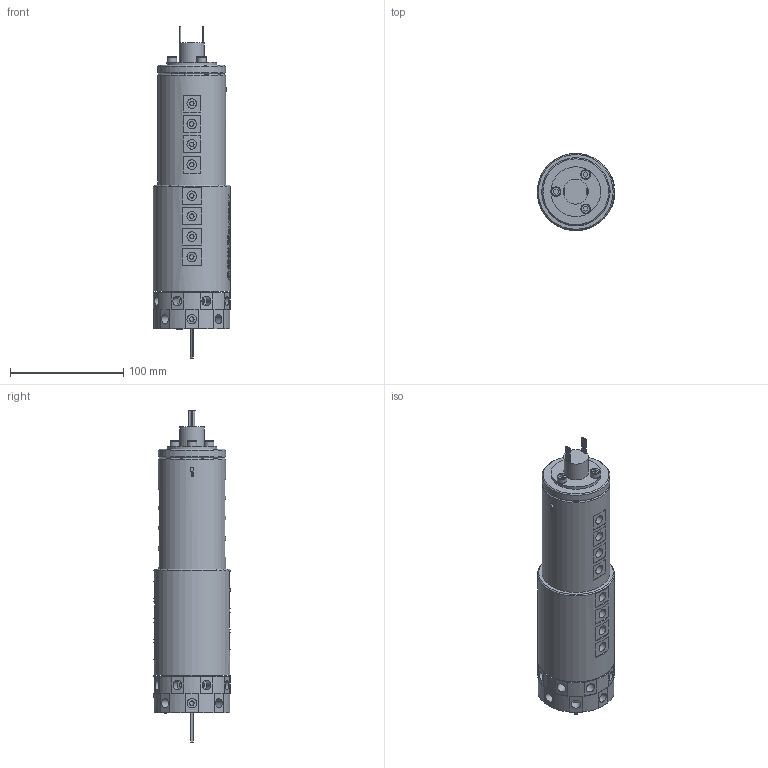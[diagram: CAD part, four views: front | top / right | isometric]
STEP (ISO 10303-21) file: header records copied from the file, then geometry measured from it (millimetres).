
FILE_DESCRIPTION(/* description */ (''),/* implementation_level */ '2;1');
FILE_NAME(/* name */ 'YQ1801-12M.stp',/* time_stamp */ '2025-02-15T15:38:36+08:00',/* author */ (''),/* organization */ (''),/* preprocessor_version */ 'ST-DEVELOPER v16.7',/* originating_system */ 'SIEMENS PLM Software NX 12.0',/* authorisation */ '');
FILE_SCHEMA (('AUTOMOTIVE_DESIGN { 1 0 10303 214 3 1 1 1 }'));
Products named in the file (1): HX0527348ECCpclg
Bounding box: 68.42 x 68 x 293.3 mm (x, y, z)
Volume: 728722.2 mm3; surface area: 92932.8 mm2
Topology: 1 solids, 12 shells, 1545 faces, 3993 edges, 2703 vertices
Faces by surface type: extrusion 671, plane 625, cylinder 201, bspline 33, cone 12, torus 3
Full cylindrical faces by diameter (mm): 0.8 x16, 3.4 x10, 4 x56, 4.1 x16, 4.2 x16, 5 x3, 5.5 x3, 7.8 x1, 8 x1, 8.5 x35, 22 x1, 44 x1, 47 x1, 60 x2, 68 x2
Entity records: 54380 total; most frequent: CARTESIAN_POINT 22446, ORIENTED_EDGE 7350, DIRECTION 4140, EDGE_CURVE 3675, B_SPLINE_CURVE_WITH_KNOTS 3112, VERTEX_POINT 2585, EDGE_LOOP 1968, ADVANCED_FACE 1542
